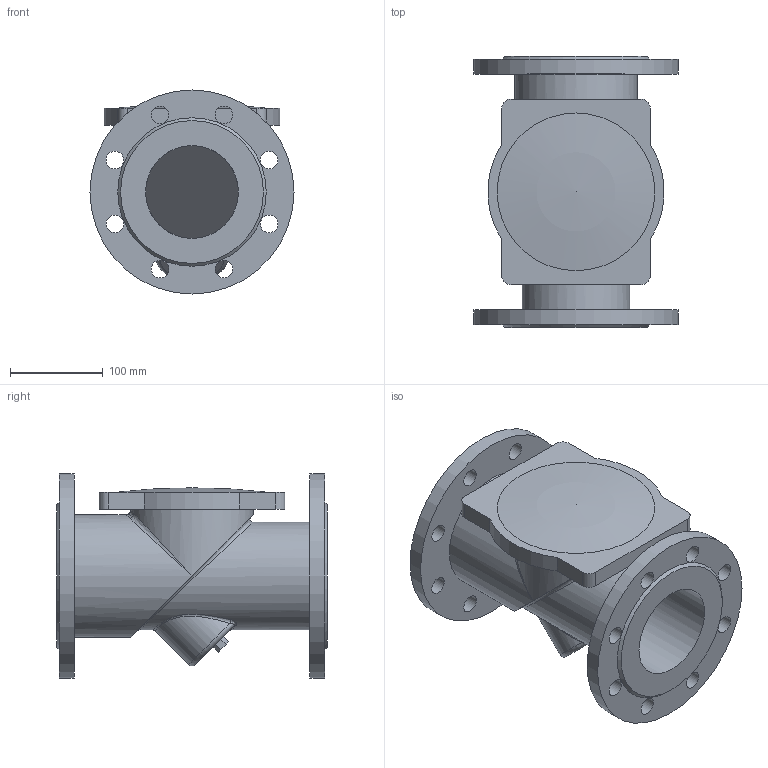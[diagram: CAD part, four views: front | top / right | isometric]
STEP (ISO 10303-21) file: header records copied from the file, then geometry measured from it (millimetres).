
FILE_DESCRIPTION(('STEP AP203'), '1');
FILE_NAME('Êëàïàí îäíîñòâîð÷àòûé îáðàòíûé ôëàíöåâûé 015F.Z DN100 PN10_PN16', '', ('UNSPECIFIED'), ('UNSPECIFIED'), 'ASCON STEP Converter 1.6', 'ASCON Math Kernel', '');
FILE_SCHEMA(('CONFIG_CONTROL_DESIGN'));
Length unit declared in the file: millimetre
Bounding box: 220 x 292 x 220 mm (x, y, z)
Volume: 2806576.2 mm3; surface area: 444011.6 mm2
Topology: 1 solids, 2 shells, 70 faces, 159 edges, 102 vertices
Faces by surface type: cylinder 33, plane 27, bspline 6, cone 2, torus 1, sphere 1
Full cylindrical faces by diameter (mm): 19 x16, 100 x2, 115 x1, 116 x1, 132 x2, 220 x2
Entity records: 4053 total; most frequent: CARTESIAN_POINT 1958, DIRECTION 298, ORIENTED_EDGE 256, EDGE_LOOP 141, AXIS2_PLACEMENT_3D 128, EDGE_CURVE 128, VERTEX_POINT 101, FACE_BOUND 88
